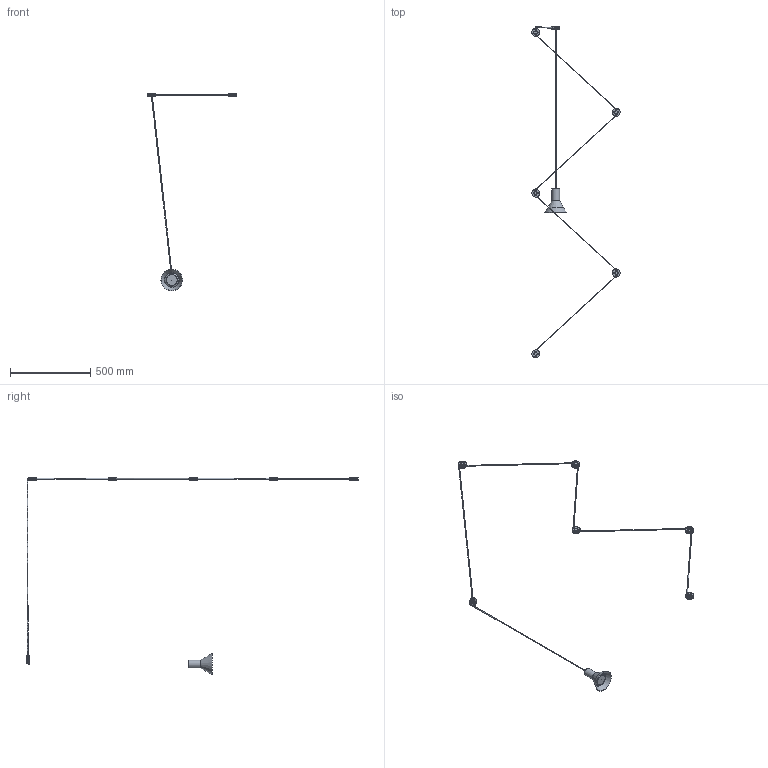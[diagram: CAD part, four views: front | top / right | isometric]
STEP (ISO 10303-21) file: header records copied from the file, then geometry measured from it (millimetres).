
FILE_DESCRIPTION(/* description */ (''),/* implementation_level */ '2;1');
FILE_NAME(/* name */ 'C:\Users\Giulia\Dropbox\MODELLI DG 2015\CAD 3D\N-EURO\1713 - N-EURO.stp',/* time_stamp */ '2015-04-21T17:18:12+02:00',/* author */ ('Giulia'),/* organization */ (''),/* preprocessor_version */ 'ST-DEVELOPER v15.6',/* originating_system */ 'Autodesk Inventor 2015',/* authorisation */ '');
FILE_SCHEMA (('AUTOMOTIVE_DESIGN { 1 0 10303 214 3 1 1 }'));
Length unit declared in the file: centimetre
Products named in the file (1): 1713 - N-EURO
Bounding box: 550 x 2065.44 x 1229.75 mm (x, y, z)
Volume: 352491.7 mm3; surface area: 241047.7 mm2
Topology: 2 solids, 15 shells, 276 faces, 640 edges, 413 vertices
Faces by surface type: cylinder 114, plane 99, torus 38, cone 18, bspline 7
Full cylindrical faces by diameter (mm): 4.5 x6, 5.5 x7, 10 x7, 38 x6, 46 x1, 49 x1, 50 x12
Entity records: 8170 total; most frequent: CARTESIAN_POINT 1999, DIRECTION 1314, ORIENTED_EDGE 1030, AXIS2_PLACEMENT_3D 549, EDGE_CURVE 515, EDGE_LOOP 409, VERTEX_POINT 386, CIRCLE 278
